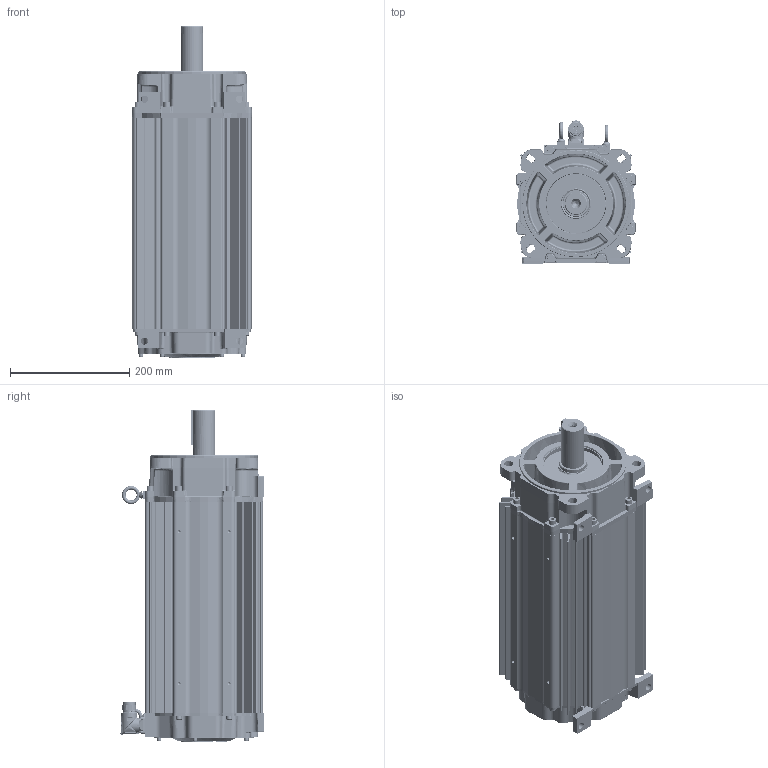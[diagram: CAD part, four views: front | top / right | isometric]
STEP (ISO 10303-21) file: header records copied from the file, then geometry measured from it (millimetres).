
FILE_DESCRIPTION((''),'2;1');
FILE_NAME('10001410891-Q_ASM','2020-01-15T14:11:43',('VThimma'),('Rockwell Automation'),'CREO PARAMETRIC BY PTC INC, 2017380','CREO PARAMETRIC BY PTC INC, 2017380','');
FILE_SCHEMA(('CONFIG_CONTROL_DESIGN','SHAPE_APPEARANCE_LAYERS_GROUPS'));
Products named in the file (26): 10001371613; 10001238886_AF0; 10001298482_AF22; 10001284445_ASM; CH31X150; 10001406659_ASM; 10001336772; 10001398824_ASM; 10001257630_AF308; 10001300098_AF280; 10001314840_ASM; 10001586886; 10000172464; 0002-5005; 10000014325-2; 10000014325-1; 10000014326-1; 10000014326-M23_ASM; 10000014328-M23; 10000014325-M23_ASM; 10000569218; 10001290343; 221404-Q12; 0011-2066; 10001609981; 10001410891-Q_ASM
Assembly tree (52 placements, depth 4):
  10001410891-Q_ASM
    10001406659_ASM
      10001371613
      10001284445_ASM
        10001238886_AF0
        10001298482_AF22
      CH31X150  x8
    10001398824_ASM
      10001336772
    10001314840_ASM
      10001257630_AF308
      10001300098_AF280
    10001586886  x8
    10000172464  x5
    0002-5005  x2
    10000014325-M23_ASM
      10000014325-2
      10000014325-1
      10000014326-M23_ASM
        10000014326-1
      10000014328-M23  x4
    10000569218
    10001290343
    221404-Q12  x6
    0011-2066
    10001609981
Bounding box: 200.45 x 240.54 x 557.79 mm (x, y, z)
Surface area: 1311258.9 mm2 (no closed solid volume)
Topology: 0 solids, 61 shells, 5727 faces, 14631 edges, 9034 vertices
Faces by surface type: cylinder 1841, plane 1436, bspline 1179, cone 586, torus 586, sphere 95, extrusion 3, revolution 1
Entity records: 290286 total; most frequent: CARTESIAN_POINT 112617, ORIENTED_EDGE 23652, DIRECTION 19703, PRESENTATION_STYLE_ASSIGNMENT 16402, STYLED_ITEM 16402, CURVE_STYLE 11836, EDGE_CURVE 11832, AXIS2_PLACEMENT_3D 7864
